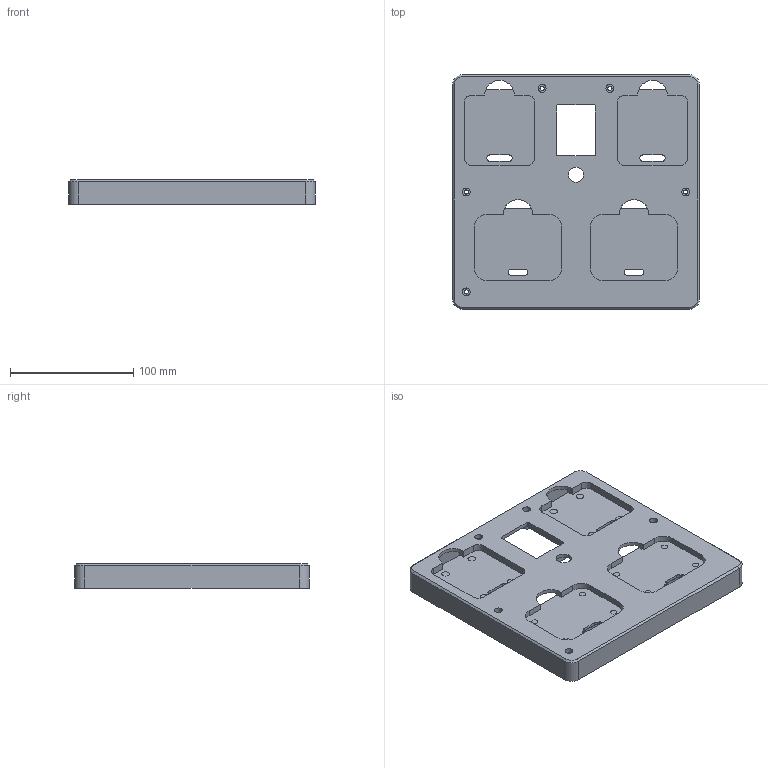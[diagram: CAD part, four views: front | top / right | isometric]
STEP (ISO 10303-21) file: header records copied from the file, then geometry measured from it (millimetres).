
FILE_DESCRIPTION(('Open CASCADE Model'),'2;1');
FILE_NAME('Open CASCADE Shape Model','2026-11-16T01:16:52',('Author'),( 'Open CASCADE'),'Open CASCADE STEP processor 7.7','Open CASCADE 7.7' ,'Unknown');
FILE_SCHEMA(('AUTOMOTIVE_DESIGN { 1 0 10303 214 1 1 1 1 }'));
Length unit declared in the file: millimetre
Products named in the file (1): Open CASCADE STEP translator 7.7 2
Bounding box: 200 x 190 x 20 mm (x, y, z)
Volume: 252550.4 mm3; surface area: 123119.5 mm2
Topology: 1 solids, 1 shells, 280 faces, 724 edges, 480 vertices
Faces by surface type: plane 144, cylinder 132, cone 4
Full cylindrical faces by diameter (mm): 1.6 x4, 3.4 x5, 5.15 x8, 6.15 x8, 6.4 x5, 8.5 x5, 12.2 x1
Entity records: 18070 total; most frequent: CARTESIAN_POINT 3737, DIRECTION 2642, ORIENTED_EDGE 1448, PCURVE 1448, DEFINITIONAL_REPRESENTATION 1448, LINE 1292, VECTOR 1292, EDGE_CURVE 724
